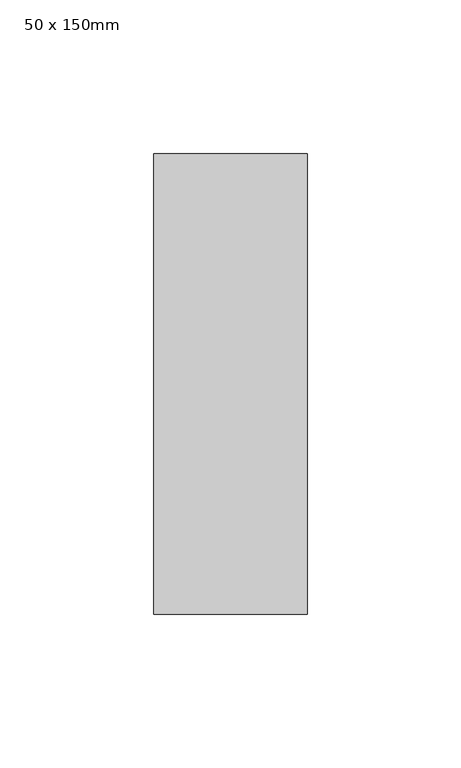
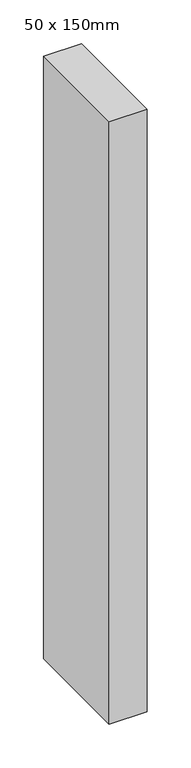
"""IFC4 building model written with IfcOpenShell, lengths in millimetres: member geometry, Прямоугольный импост : 50 x 150mm."""

from ifc_helpers import new_model, si_unit, frame, origin, place, context, project, spatial, polyline, outline, extrude, source, transform, mapped, element, save


def member_50_x_150mm_fa2f2dd6(model_context):
    return source(origin(), model_context, "Body", "SweptSolid", [
        extrude(outline(polyline([(0.0, 75.0), (0.0, -75.0), (-50.0, -75.0), (-50.0, 75.0), (0.0, 75.0)])), frame((0.0, 0.0, -840.25), z_axis=(0.0, 0.0, 1.0), x_axis=(1.0, 0.0, 0.0)), (0.0, 0.0, 1.0), 840.25),
    ])


if __name__ == "__main__":
    model = new_model("IFC4")
    model_context = context("Model", 3, world=origin())
    ifc_project = project(units=[si_unit("LENGTHUNIT", "METRE", prefix="MILLI")], contexts=[model_context])
    site = spatial("IfcSite", under=ifc_project)
    building = spatial("IfcBuilding", under=site)
    placement = place(None, origin())
    member_50_x_150mm_shape = member_50_x_150mm_fa2f2dd6(model_context)
    element("IfcMember", 1, ObjectType="Прямоугольный импост : 50 x 150mm", at=placement, inside=building, context=model_context, shape_type="MappedRepresentation", body=[
        mapped(member_50_x_150mm_shape, transform((0.0, 0.0, 0.0), x_axis=(1.0, 0.0, 0.0), y_axis=(0.0, 1.0, 0.0), z_axis=(0.0, 0.0, 1.0))),
    ])
    save(model, "model.ifc")
